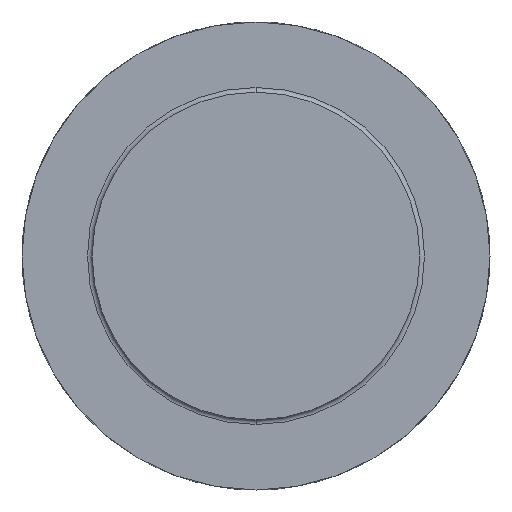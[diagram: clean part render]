
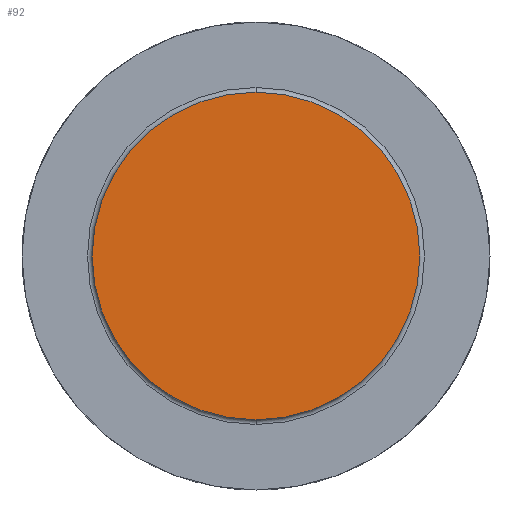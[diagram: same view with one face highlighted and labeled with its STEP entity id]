
A CAD part, front view. The second image highlights one B-rep face of the part: STEP entity #92.
In plain terms, the highlighted planar face has unit normal (0, -1, 0).
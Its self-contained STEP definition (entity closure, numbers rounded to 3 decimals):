
#18 = AXIS2_PLACEMENT_3D ( 'NONE', #251, #284, #409 ) ;
#37 = ORIENTED_EDGE ( 'NONE', *, *, #279, .T. ) ;
#46 = AXIS2_PLACEMENT_3D ( 'NONE', #168, #485, #402 ) ;
#54 = CIRCLE ( 'NONE', #46, 17.5 ) ;
#80 = EDGE_CURVE ( 'NONE', #154, #397, #54, .T. ) ;
#90 = PLANE ( 'NONE',  #18 ) ;
#92 = ADVANCED_FACE ( 'NONE', ( #325 ), #90, .T. ) ;
#110 = CARTESIAN_POINT ( 'NONE',  ( 0., 0., 17.5 ) ) ;
#153 = ORIENTED_EDGE ( 'NONE', *, *, #80, .T. ) ;
#154 = VERTEX_POINT ( 'NONE', #496 ) ;
#159 = DIRECTION ( 'NONE',  ( 0., 0., -1. ) ) ;
#168 = CARTESIAN_POINT ( 'NONE',  ( 0., 0., 0. ) ) ;
#171 = DIRECTION ( 'NONE',  ( 0., -1., 0. ) ) ;
#234 = AXIS2_PLACEMENT_3D ( 'NONE', #287, #171, #159 ) ;
#251 = CARTESIAN_POINT ( 'NONE',  ( 17.5, 0., 0. ) ) ;
#279 = EDGE_CURVE ( 'NONE', #397, #154, #448, .T. ) ;
#284 = DIRECTION ( 'NONE',  ( 0., -1., 0. ) ) ;
#287 = CARTESIAN_POINT ( 'NONE',  ( 0., 0., 0. ) ) ;
#325 = FACE_OUTER_BOUND ( 'NONE', #433, .T. ) ;
#397 = VERTEX_POINT ( 'NONE', #110 ) ;
#402 = DIRECTION ( 'NONE',  ( 0., 0., -1. ) ) ;
#409 = DIRECTION ( 'NONE',  ( 0., 0., -1. ) ) ;
#433 = EDGE_LOOP ( 'NONE', ( #153, #37 ) ) ;
#448 = CIRCLE ( 'NONE', #234, 17.5 ) ;
#485 = DIRECTION ( 'NONE',  ( 0., -1., 0. ) ) ;
#496 = CARTESIAN_POINT ( 'NONE',  ( 0., 0., -17.5 ) ) ;
